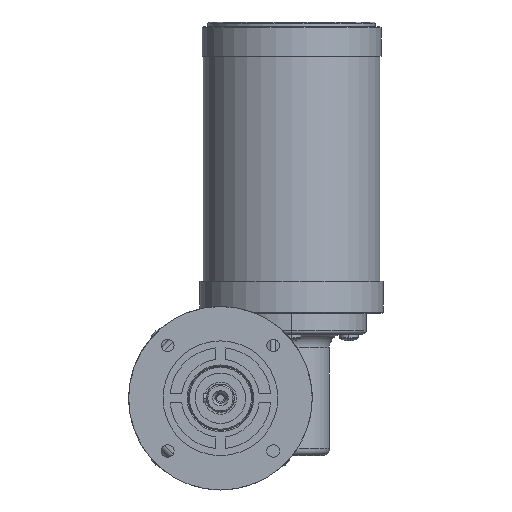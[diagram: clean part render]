
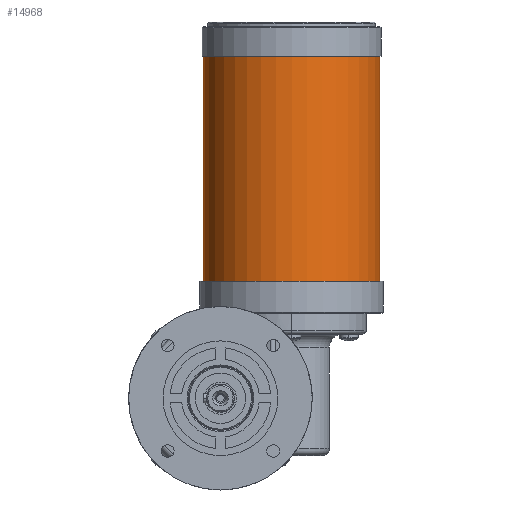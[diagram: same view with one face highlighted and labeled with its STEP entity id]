
A CAD part, left-side view. The second image highlights one B-rep face of the part: STEP entity #14968.
In plain terms, the highlighted cylindrical face has radius 38.5 mm (diameter 77 mm), a partial arc.
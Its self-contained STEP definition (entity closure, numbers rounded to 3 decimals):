
#3 = DIRECTION ( 'NONE',  ( 0., -1., 0. ) ) ;
#85 = FACE_OUTER_BOUND ( 'NONE', #13121, .T. ) ;
#772 = CIRCLE ( 'NONE', #4025, 38.5 ) ;
#1410 = VERTEX_POINT ( 'NONE', #16163 ) ;
#1464 = VERTEX_POINT ( 'NONE', #2125 ) ;
#1819 = ORIENTED_EDGE ( 'NONE', *, *, #5354, .T. ) ;
#2065 = DIRECTION ( 'NONE',  ( 0., 0., -1. ) ) ;
#2125 = CARTESIAN_POINT ( 'NONE',  ( -49.116, -47.914, 49. ) ) ;
#3201 = CARTESIAN_POINT ( 'NONE',  ( -49.116, -47.914, 147. ) ) ;
#4025 = AXIS2_PLACEMENT_3D ( 'NONE', #16448, #14987, #17981 ) ;
#5308 = AXIS2_PLACEMENT_3D ( 'NONE', #7171, #9569, #8288 ) ;
#5354 = EDGE_CURVE ( 'NONE', #1410, #12191, #9086, .T. ) ;
#6216 = ORIENTED_EDGE ( 'NONE', *, *, #17452, .T. ) ;
#7171 = CARTESIAN_POINT ( 'NONE',  ( -49.116, -9.414, 49. ) ) ;
#8288 = DIRECTION ( 'NONE',  ( 0., -1., 0. ) ) ;
#8588 = DIRECTION ( 'NONE',  ( 0., 0., -1. ) ) ;
#9086 = LINE ( 'NONE', #11922, #12762 ) ;
#9397 = CARTESIAN_POINT ( 'NONE',  ( -49.116, 29.086, 49. ) ) ;
#9569 = DIRECTION ( 'NONE',  ( 0., 0., -1. ) ) ;
#9755 = EDGE_CURVE ( 'NONE', #1464, #12191, #9945, .T. ) ;
#9793 = DIRECTION ( 'NONE',  ( 0., 0., -1. ) ) ;
#9945 = CIRCLE ( 'NONE', #5308, 38.5 ) ;
#11922 = CARTESIAN_POINT ( 'NONE',  ( -49.116, 29.086, 162. ) ) ;
#12191 = VERTEX_POINT ( 'NONE', #9397 ) ;
#12374 = CARTESIAN_POINT ( 'NONE',  ( -49.116, -47.914, 162. ) ) ;
#12461 = CYLINDRICAL_SURFACE ( 'NONE', #14577, 38.5 ) ;
#12724 = VECTOR ( 'NONE', #9793, 1000. ) ;
#12762 = VECTOR ( 'NONE', #2065, 1000. ) ;
#13121 = EDGE_LOOP ( 'NONE', ( #6216, #1819, #18140, #16501 ) ) ;
#14577 = AXIS2_PLACEMENT_3D ( 'NONE', #15333, #8588, #3 ) ;
#14968 = ADVANCED_FACE ( 'NONE', ( #85 ), #12461, .T. ) ;
#14987 = DIRECTION ( 'NONE',  ( 0., 0., -1. ) ) ;
#15333 = CARTESIAN_POINT ( 'NONE',  ( -49.116, -9.414, 162. ) ) ;
#16163 = CARTESIAN_POINT ( 'NONE',  ( -49.116, 29.086, 147. ) ) ;
#16448 = CARTESIAN_POINT ( 'NONE',  ( -49.116, -9.414, 147. ) ) ;
#16501 = ORIENTED_EDGE ( 'NONE', *, *, #16803, .F. ) ;
#16633 = LINE ( 'NONE', #12374, #12724 ) ;
#16803 = EDGE_CURVE ( 'NONE', #17827, #1464, #16633, .T. ) ;
#17452 = EDGE_CURVE ( 'NONE', #17827, #1410, #772, .T. ) ;
#17827 = VERTEX_POINT ( 'NONE', #3201 ) ;
#17981 = DIRECTION ( 'NONE',  ( 0., -1., 0. ) ) ;
#18140 = ORIENTED_EDGE ( 'NONE', *, *, #9755, .F. ) ;
